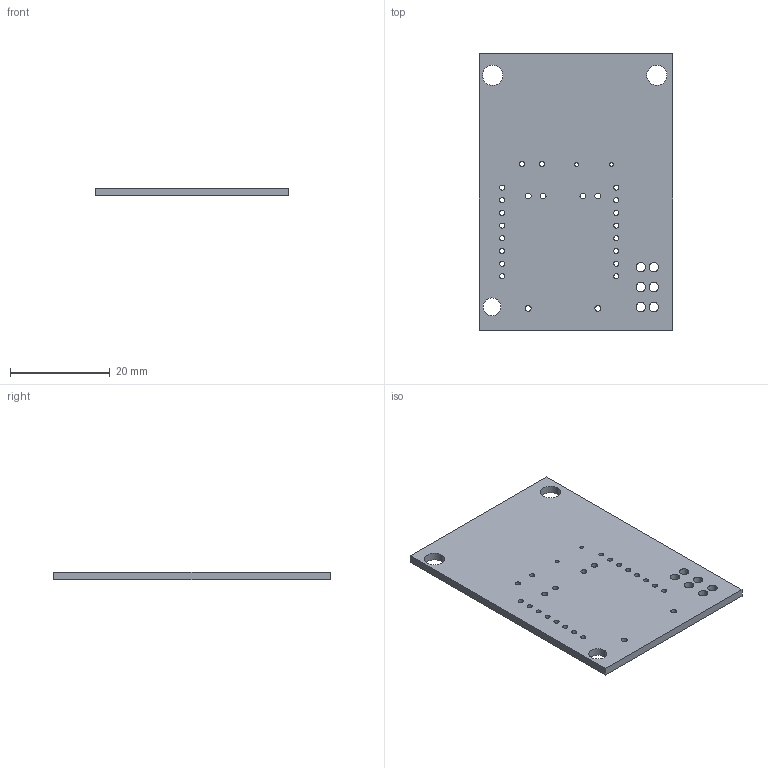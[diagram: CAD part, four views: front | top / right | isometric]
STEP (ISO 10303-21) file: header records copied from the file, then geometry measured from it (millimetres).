
FILE_DESCRIPTION(('Designed by EasyEDA Pro'),'2;1');
FILE_NAME('Open CASCADE Shape Model','2026-02-14T21:20:33',('Author'),( 'Open CASCADE'),'Open CASCADE STEP processor 7.8','Open CASCADE 7.8' ,'Unknown');
FILE_SCHEMA(('AUTOMOTIVE_DESIGN { 1 0 10303 214 1 1 1 1 }'));
Length unit declared in the file: millimetre
Products named in the file (6): EasyEDA PCB Model~oy4w; Board~oy4w; TopCopper~oy4w; BottomCopper~oy4w; TopFpcStiffener~oy4w; BottomFpcStiffener~oy4w
Assembly tree (5 placements, depth 2):
  EasyEDA PCB Model~oy4w
    Board~oy4w
    TopCopper~oy4w
    BottomCopper~oy4w
    TopFpcStiffener~oy4w
    BottomFpcStiffener~oy4w
Bounding box: 38.71 x 55.35 x 1.6 mm (x, y, z)
Volume: 3307.8 mm3; surface area: 4687.3 mm2
Topology: 1 solids, 1 shells, 76 faces, 222 edges, 148 vertices
Faces by surface type: cylinder 70, plane 6
Entity records: 3376 total; most frequent: DIRECTION 526, CARTESIAN_POINT 452, ORIENTED_EDGE 444, AXIS2_PLACEMENT_3D 222, EDGE_CURVE 222, VERTEX_POINT 148, FACE_BOUND 146, EDGE_LOOP 146
